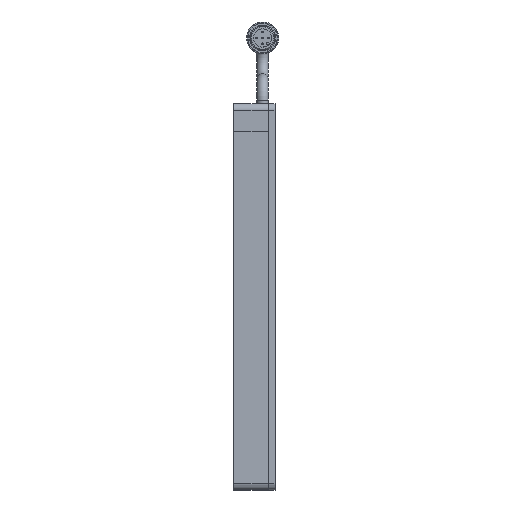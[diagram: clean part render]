
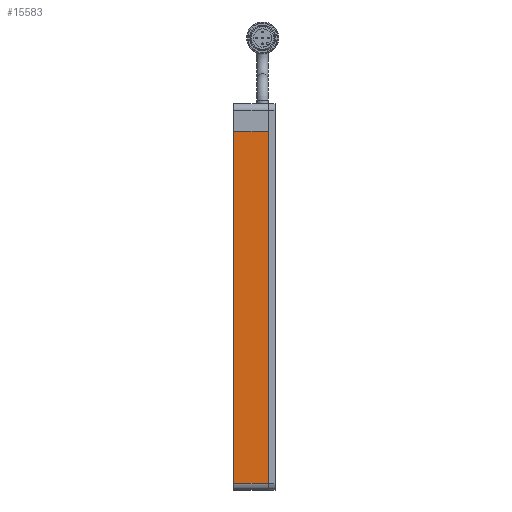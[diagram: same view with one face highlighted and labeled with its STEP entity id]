
A CAD part, left-side view. The second image highlights one B-rep face of the part: STEP entity #15583.
In plain terms, the highlighted planar face has unit normal (-1, 0, 0) as drawn and (0, 0, -1) by its records, which use the part's own axes.
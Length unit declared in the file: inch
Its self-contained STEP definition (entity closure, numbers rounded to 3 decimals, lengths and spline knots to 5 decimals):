
#68 = VECTOR ( 'NONE', #1081, 39.37008 ) ;
#252 = AXIS2_PLACEMENT_3D ( 'NONE', #10327, #3998, #7915 ) ;
#696 = CARTESIAN_POINT ( 'NONE',  ( -3., 0.3125, -0.25 ) ) ;
#919 = VERTEX_POINT ( 'NONE', #696 ) ;
#1081 = DIRECTION ( 'NONE',  ( -1., 0., 0. ) ) ;
#1140 = CARTESIAN_POINT ( 'NONE',  ( 3.375, 0.3125, -0.25 ) ) ;
#1174 = VERTEX_POINT ( 'NONE', #4772 ) ;
#1695 = VECTOR ( 'NONE', #3447, 39.37008 ) ;
#1951 = CARTESIAN_POINT ( 'NONE',  ( 3.375, -0.3125, -0.25 ) ) ;
#2410 = CARTESIAN_POINT ( 'NONE',  ( -3.5, 0.3125, -0.25 ) ) ;
#2429 = DIRECTION ( 'NONE',  ( 0., -1., 0. ) ) ;
#3027 = PLANE ( 'NONE',  #252 ) ;
#3447 = DIRECTION ( 'NONE',  ( -1., 0., 0. ) ) ;
#3657 = ORIENTED_EDGE ( 'NONE', *, *, #6729, .T. ) ;
#3998 = DIRECTION ( 'NONE',  ( 0., 0., 1. ) ) ;
#4772 = CARTESIAN_POINT ( 'NONE',  ( -3., -0.3125, -0.25 ) ) ;
#5058 = LINE ( 'NONE', #11097, #6890 ) ;
#5646 = LINE ( 'NONE', #10554, #68 ) ;
#5846 = EDGE_CURVE ( 'NONE', #13164, #919, #9547, .T. ) ;
#6506 = FACE_OUTER_BOUND ( 'NONE', #9478, .T. ) ;
#6729 = EDGE_CURVE ( 'NONE', #13164, #13977, #5058, .T. ) ;
#6890 = VECTOR ( 'NONE', #2429, 39.37008 ) ;
#7915 = DIRECTION ( 'NONE',  ( 1., 0., 0. ) ) ;
#9187 = DIRECTION ( 'NONE',  ( 0., 1., 0. ) ) ;
#9350 = ORIENTED_EDGE ( 'NONE', *, *, #5846, .F. ) ;
#9478 = EDGE_LOOP ( 'NONE', ( #9350, #3657, #11033, #15531 ) ) ;
#9547 = LINE ( 'NONE', #2410, #1695 ) ;
#10327 = CARTESIAN_POINT ( 'NONE',  ( -3.5, 0.3125, -0.25 ) ) ;
#10554 = CARTESIAN_POINT ( 'NONE',  ( -3.5, -0.3125, -0.25 ) ) ;
#11033 = ORIENTED_EDGE ( 'NONE', *, *, #13732, .T. ) ;
#11097 = CARTESIAN_POINT ( 'NONE',  ( 3.375, 0.3125, -0.25 ) ) ;
#11630 = VECTOR ( 'NONE', #9187, 39.37008 ) ;
#11675 = LINE ( 'NONE', #11993, #11630 ) ;
#11993 = CARTESIAN_POINT ( 'NONE',  ( -3., -0.3125, -0.25 ) ) ;
#13164 = VERTEX_POINT ( 'NONE', #1140 ) ;
#13732 = EDGE_CURVE ( 'NONE', #13977, #1174, #5646, .T. ) ;
#13977 = VERTEX_POINT ( 'NONE', #1951 ) ;
#14966 = EDGE_CURVE ( 'NONE', #1174, #919, #11675, .T. ) ;
#15531 = ORIENTED_EDGE ( 'NONE', *, *, #14966, .T. ) ;
#15583 = ADVANCED_FACE ( 'NONE', ( #6506 ), #3027, .F. ) ;
